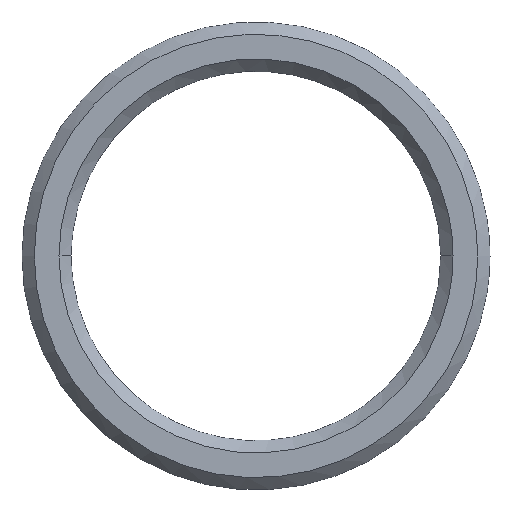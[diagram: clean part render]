
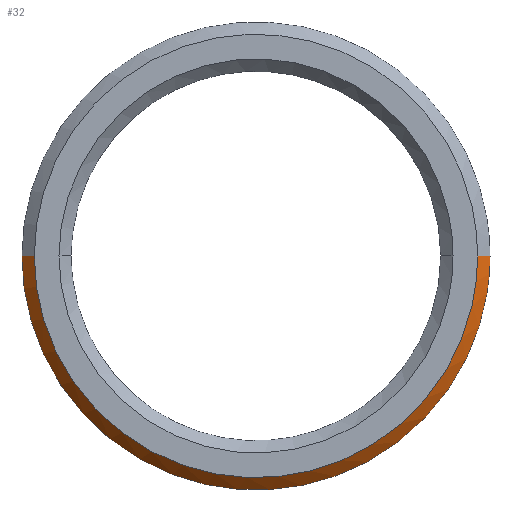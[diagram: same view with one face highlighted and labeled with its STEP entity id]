
A CAD part, top view. The second image highlights one B-rep face of the part: STEP entity #32.
In plain terms, the highlighted free-form (B-spline) face has degree [1, 2] with [2, 9] control points.
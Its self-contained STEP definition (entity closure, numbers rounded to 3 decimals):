
#32=ADVANCED_FACE('',(#42),#296,.T.);
#42=FACE_OUTER_BOUND('',#54,.T.);
#54=EDGE_LOOP('',(#82,#83,#84,#85));
#82=ORIENTED_EDGE('',*,*,#231,.F.);
#83=ORIENTED_EDGE('',*,*,#234,.F.);
#84=ORIENTED_EDGE('',*,*,#232,.F.);
#85=ORIENTED_EDGE('',*,*,#236,.T.);
#110=(
BOUNDED_CURVE()
B_SPLINE_CURVE(2,(#596,#597,#598,#599,#600),.UNSPECIFIED.,.F.,.F.)
B_SPLINE_CURVE_WITH_KNOTS((3,2,3),(-4.142,-2.571,-1.),
 .UNSPECIFIED.)
CURVE()
GEOMETRIC_REPRESENTATION_ITEM()
RATIONAL_B_SPLINE_CURVE((1.,0.707,1.,0.707,1.))
REPRESENTATION_ITEM('')
);
#111=(
BOUNDED_CURVE()
B_SPLINE_CURVE(2,(#601,#602,#603,#604,#605),.UNSPECIFIED.,.F.,.F.)
B_SPLINE_CURVE_WITH_KNOTS((3,2,3),(-4.142,-2.571,-1.),
 .UNSPECIFIED.)
CURVE()
GEOMETRIC_REPRESENTATION_ITEM()
RATIONAL_B_SPLINE_CURVE((1.,0.707,1.,0.707,1.))
REPRESENTATION_ITEM('')
);
#116=(
BOUNDED_CURVE()
B_SPLINE_CURVE(2,(#632,#633,#634,#635,#636),.UNSPECIFIED.,.F.,.F.)
B_SPLINE_CURVE_WITH_KNOTS((3,2,3),(5.142,6.712,8.283),
 .UNSPECIFIED.)
CURVE()
GEOMETRIC_REPRESENTATION_ITEM()
RATIONAL_B_SPLINE_CURVE((1.,0.707,1.,0.707,1.))
REPRESENTATION_ITEM('')
);
#134=PCURVE('',#295,#174);
#136=PCURVE('',#295,#176);
#138=PCURVE('',#291,#178);
#142=PCURVE('',#296,#182);
#143=PCURVE('',#296,#183);
#144=PCURVE('',#296,#184);
#145=PCURVE('',#296,#185);
#147=PCURVE('',#297,#187);
#174=DEFINITIONAL_REPRESENTATION('',(#257),#669);
#176=DEFINITIONAL_REPRESENTATION('',(#260),#669);
#178=DEFINITIONAL_REPRESENTATION('',(#111),#669);
#182=DEFINITIONAL_REPRESENTATION('',(#262),#669);
#183=DEFINITIONAL_REPRESENTATION('',(#263),#669);
#184=DEFINITIONAL_REPRESENTATION('',(#264),#669);
#185=DEFINITIONAL_REPRESENTATION('',(#265),#669);
#187=DEFINITIONAL_REPRESENTATION('',(#267),#669);
#211=SURFACE_CURVE('',#256,(#134,#142),.PCURVE_S1.);
#212=SURFACE_CURVE('',#259,(#136,#144),.PCURVE_S1.);
#214=SURFACE_CURVE('',#110,(#138,#143),.PCURVE_S1.);
#216=SURFACE_CURVE('',#116,(#145,#147),.PCURVE_S1.);
#231=EDGE_CURVE('',#288,#285,#211,.T.);
#232=EDGE_CURVE('',#286,#289,#212,.T.);
#234=EDGE_CURVE('',#289,#288,#214,.T.);
#236=EDGE_CURVE('',#286,#285,#216,.T.);
#256=B_SPLINE_CURVE_WITH_KNOTS('',1,(#579,#580),.UNSPECIFIED.,.F.,.F.,(2,
2),(0.,1.),.UNSPECIFIED.);
#257=B_SPLINE_CURVE_WITH_KNOTS('',1,(#581,#582),.UNSPECIFIED.,.F.,.F.,(2,
2),(0.,1.),.UNSPECIFIED.);
#259=B_SPLINE_CURVE_WITH_KNOTS('',1,(#585,#586),.UNSPECIFIED.,.F.,.F.,(2,
2),(4.142,5.142),.UNSPECIFIED.);
#260=B_SPLINE_CURVE_WITH_KNOTS('',1,(#587,#588),.UNSPECIFIED.,.F.,.F.,(2,
2),(4.142,5.142),.UNSPECIFIED.);
#262=B_SPLINE_CURVE_WITH_KNOTS('',1,(#626,#627),.UNSPECIFIED.,.F.,.F.,(2,
2),(0.,1.),.UNSPECIFIED.);
#263=B_SPLINE_CURVE_WITH_KNOTS('',1,(#628,#629),.UNSPECIFIED.,.F.,.F.,(2,
2),(-4.142,-1.),.UNSPECIFIED.);
#264=B_SPLINE_CURVE_WITH_KNOTS('',1,(#630,#631),.UNSPECIFIED.,.F.,.F.,(2,
2),(4.142,5.142),.UNSPECIFIED.);
#265=B_SPLINE_CURVE_WITH_KNOTS('',1,(#637,#638),.UNSPECIFIED.,.F.,.F.,(2,
2),(5.142,8.283),.UNSPECIFIED.);
#267=B_SPLINE_CURVE_WITH_KNOTS('',1,(#641,#642),.UNSPECIFIED.,.F.,.F.,(2,
2),(5.142,8.283),.UNSPECIFIED.);
#285=VERTEX_POINT('',#483);
#286=VERTEX_POINT('',#484);
#288=VERTEX_POINT('',#486);
#289=VERTEX_POINT('',#487);
#291=PLANE('',#321);
#295=(
BOUNDED_SURFACE()
B_SPLINE_SURFACE(1,2,((#385,#386,#387,#388,#389,#390,#391,#392,#393),(#394,
#395,#396,#397,#398,#399,#400,#401,#402)),.UNSPECIFIED.,.F.,.F.,.F.)
B_SPLINE_SURFACE_WITH_KNOTS((2,2),(3,2,2,2,3),(0.,1.),(0.,1.571,
3.142,4.712,6.283),.UNSPECIFIED.)
GEOMETRIC_REPRESENTATION_ITEM()
RATIONAL_B_SPLINE_SURFACE(((1.,0.707,1.,0.707,1.,
0.707,1.,0.707,1.),(1.,0.707,1.,0.707,
1.,0.707,1.,0.707,1.)))
REPRESENTATION_ITEM('')
SURFACE()
);
#296=(
BOUNDED_SURFACE()
B_SPLINE_SURFACE(1,2,((#404,#405,#406,#407,#408,#409,#410,#411,#412),(#413,
#414,#415,#416,#417,#418,#419,#420,#421)),.UNSPECIFIED.,.F.,.F.,.F.)
B_SPLINE_SURFACE_WITH_KNOTS((2,2),(3,2,2,2,3),(0.,1.),(0.,1.571,
3.142,4.712,6.283),.UNSPECIFIED.)
GEOMETRIC_REPRESENTATION_ITEM()
RATIONAL_B_SPLINE_SURFACE(((1.,0.707,1.,0.707,1.,
0.707,1.,0.707,1.),(1.,0.707,1.,0.707,
1.,0.707,1.,0.707,1.)))
REPRESENTATION_ITEM('')
SURFACE()
);
#297=(
BOUNDED_SURFACE()
B_SPLINE_SURFACE(1,2,((#422,#423,#424,#425,#426,#427,#428,#429,#430),(#431,
#432,#433,#434,#435,#436,#437,#438,#439)),.UNSPECIFIED.,.F.,.F.,.F.)
B_SPLINE_SURFACE_WITH_KNOTS((2,2),(3,2,2,2,3),(0.,1.),(0.,1.571,
3.142,4.712,6.283),.UNSPECIFIED.)
GEOMETRIC_REPRESENTATION_ITEM()
RATIONAL_B_SPLINE_SURFACE(((1.,0.707,1.,0.707,1.,
0.707,1.,0.707,1.),(1.,0.707,1.,0.707,
1.,0.707,1.,0.707,1.)))
REPRESENTATION_ITEM('')
SURFACE()
);
#321=AXIS2_PLACEMENT_3D('',#403,#326,$);
#326=DIRECTION('',(0.,0.,1.));
#385=CARTESIAN_POINT('',(709.,45.,-6.));
#386=CARTESIAN_POINT('',(709.,45.,-6.));
#387=CARTESIAN_POINT('',(709.,45.,-6.));
#388=CARTESIAN_POINT('',(709.,45.,-6.));
#389=CARTESIAN_POINT('',(709.,45.,-6.));
#390=CARTESIAN_POINT('',(709.,45.,-6.));
#391=CARTESIAN_POINT('',(709.,45.,-6.));
#392=CARTESIAN_POINT('',(709.,45.,-6.));
#393=CARTESIAN_POINT('',(709.,45.,-6.));
#394=CARTESIAN_POINT('',(722.435,45.,-19.435));
#395=CARTESIAN_POINT('',(722.435,58.435,-19.435));
#396=CARTESIAN_POINT('',(709.,58.435,-19.435));
#397=CARTESIAN_POINT('',(695.565,58.435,-19.435));
#398=CARTESIAN_POINT('',(695.565,45.,-19.435));
#399=CARTESIAN_POINT('',(695.565,31.565,-19.435));
#400=CARTESIAN_POINT('',(709.,31.565,-19.435));
#401=CARTESIAN_POINT('',(722.435,31.565,-19.435));
#402=CARTESIAN_POINT('',(722.435,45.,-19.435));
#403=CARTESIAN_POINT('',(718.,54.,-15.));
#404=CARTESIAN_POINT('',(709.,45.,-6.));
#405=CARTESIAN_POINT('',(709.,45.,-6.));
#406=CARTESIAN_POINT('',(709.,45.,-6.));
#407=CARTESIAN_POINT('',(709.,45.,-6.));
#408=CARTESIAN_POINT('',(709.,45.,-6.));
#409=CARTESIAN_POINT('',(709.,45.,-6.));
#410=CARTESIAN_POINT('',(709.,45.,-6.));
#411=CARTESIAN_POINT('',(709.,45.,-6.));
#412=CARTESIAN_POINT('',(709.,45.,-6.));
#413=CARTESIAN_POINT('',(722.435,45.,-19.435));
#414=CARTESIAN_POINT('',(722.435,58.435,-19.435));
#415=CARTESIAN_POINT('',(709.,58.435,-19.435));
#416=CARTESIAN_POINT('',(695.565,58.435,-19.435));
#417=CARTESIAN_POINT('',(695.565,45.,-19.435));
#418=CARTESIAN_POINT('',(695.565,31.565,-19.435));
#419=CARTESIAN_POINT('',(709.,31.565,-19.435));
#420=CARTESIAN_POINT('',(722.435,31.565,-19.435));
#421=CARTESIAN_POINT('',(722.435,45.,-19.435));
#422=CARTESIAN_POINT('',(709.,45.,-25.));
#423=CARTESIAN_POINT('',(709.,45.,-25.));
#424=CARTESIAN_POINT('',(709.,45.,-25.));
#425=CARTESIAN_POINT('',(709.,45.,-25.));
#426=CARTESIAN_POINT('',(709.,45.,-25.));
#427=CARTESIAN_POINT('',(709.,45.,-25.));
#428=CARTESIAN_POINT('',(709.,45.,-25.));
#429=CARTESIAN_POINT('',(709.,45.,-25.));
#430=CARTESIAN_POINT('',(709.,45.,-25.));
#431=CARTESIAN_POINT('',(722.435,45.,-11.565));
#432=CARTESIAN_POINT('',(722.435,31.565,-11.565));
#433=CARTESIAN_POINT('',(709.,31.565,-11.565));
#434=CARTESIAN_POINT('',(695.565,31.565,-11.565));
#435=CARTESIAN_POINT('',(695.565,45.,-11.565));
#436=CARTESIAN_POINT('',(695.565,58.435,-11.565));
#437=CARTESIAN_POINT('',(709.,58.435,-11.565));
#438=CARTESIAN_POINT('',(722.435,58.435,-11.565));
#439=CARTESIAN_POINT('',(722.435,45.,-11.565));
#483=CARTESIAN_POINT('',(718.5,45.,-15.5));
#484=CARTESIAN_POINT('',(699.5,45.,-15.5));
#486=CARTESIAN_POINT('',(718.,45.,-15.));
#487=CARTESIAN_POINT('',(700.,45.,-15.));
#579=CARTESIAN_POINT('',(718.,45.,-15.));
#580=CARTESIAN_POINT('',(718.5,45.,-15.5));
#581=CARTESIAN_POINT('',(0.67,0.));
#582=CARTESIAN_POINT('',(0.707,0.));
#585=CARTESIAN_POINT('',(699.5,45.,-15.5));
#586=CARTESIAN_POINT('',(700.,45.,-15.));
#587=CARTESIAN_POINT('',(0.707,3.142));
#588=CARTESIAN_POINT('',(0.67,3.142));
#596=CARTESIAN_POINT('',(700.,45.,-15.));
#597=CARTESIAN_POINT('',(700.,36.,-15.));
#598=CARTESIAN_POINT('',(709.,36.,-15.));
#599=CARTESIAN_POINT('',(718.,36.,-15.));
#600=CARTESIAN_POINT('',(718.,45.,-15.));
#601=CARTESIAN_POINT('',(1.,0.5));
#602=CARTESIAN_POINT('',(1.,1.));
#603=CARTESIAN_POINT('',(0.5,1.));
#604=CARTESIAN_POINT('',(0.,1.));
#605=CARTESIAN_POINT('',(0.,0.5));
#626=CARTESIAN_POINT('',(0.67,6.283));
#627=CARTESIAN_POINT('',(0.707,6.283));
#628=CARTESIAN_POINT('',(0.67,3.142));
#629=CARTESIAN_POINT('',(0.67,6.283));
#630=CARTESIAN_POINT('',(0.707,3.142));
#631=CARTESIAN_POINT('',(0.67,3.142));
#632=CARTESIAN_POINT('',(699.5,45.,-15.5));
#633=CARTESIAN_POINT('',(699.5,35.5,-15.5));
#634=CARTESIAN_POINT('',(709.,35.5,-15.5));
#635=CARTESIAN_POINT('',(718.5,35.5,-15.5));
#636=CARTESIAN_POINT('',(718.5,45.,-15.5));
#637=CARTESIAN_POINT('',(0.707,3.142));
#638=CARTESIAN_POINT('',(0.707,6.283));
#641=CARTESIAN_POINT('',(0.707,3.142));
#642=CARTESIAN_POINT('',(0.707,0.));
#669=(
GEOMETRIC_REPRESENTATION_CONTEXT(2)
PARAMETRIC_REPRESENTATION_CONTEXT()
REPRESENTATION_CONTEXT('pspace','')
);
